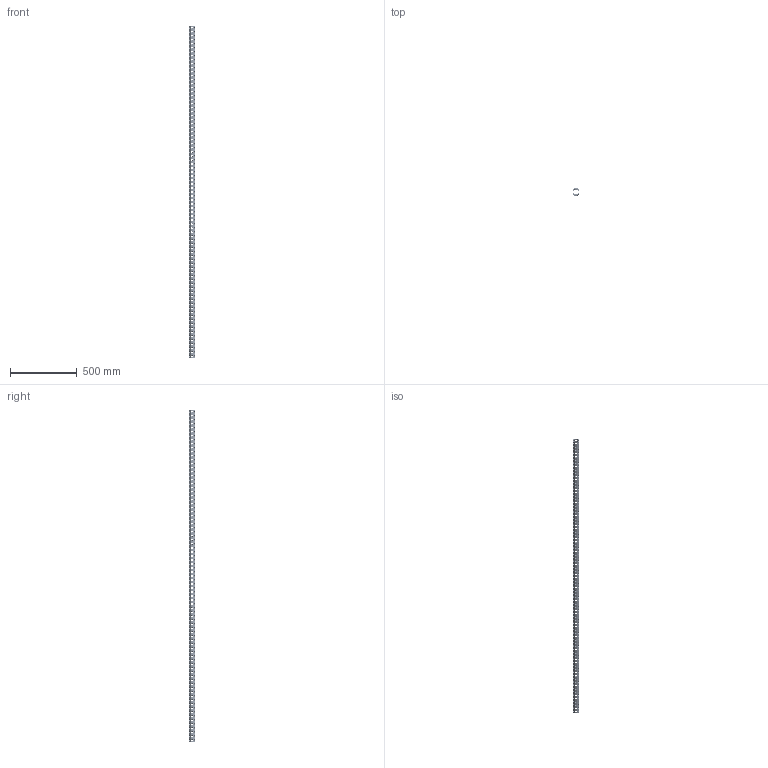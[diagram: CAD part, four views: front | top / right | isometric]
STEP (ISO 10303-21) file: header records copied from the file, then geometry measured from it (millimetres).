
FILE_DESCRIPTION(('CATIA V5 STEP Exchange'),'2;1');
FILE_NAME('U:\Room\唐宝山\EGT002\46-01-010312-01-EGT002-2488.stp','2021-08-24T02:10:07+00:00',('none'),('none'),'CATIA Version 5 Release 21 GA (IN-10)','CATIA V5 STEP AP203','none');
FILE_SCHEMA(('CONFIG_CONTROL_DESIGN'));
Products named in the file (1): 46-01-010312-01-EGT002-2488
Bounding box: 50 x 50 x 2488 mm (x, y, z)
Volume: 1772744.3 mm3; surface area: 854223.8 mm2
Topology: 1 solids, 1 shells, 3404 faces, 9376 edges, 5808 vertices
Faces by surface type: cone 1992, cylinder 1386, plane 26
Entity records: 145630 total; most frequent: CARTESIAN_POINT 63893, ORIENTED_EDGE 18752, DIRECTION 12918, EDGE_CURVE 9376, AXIS2_PLACEMENT_3D 5899, VERTEX_POINT 5808, EDGE_LOOP 4568, VECTOR 3616
